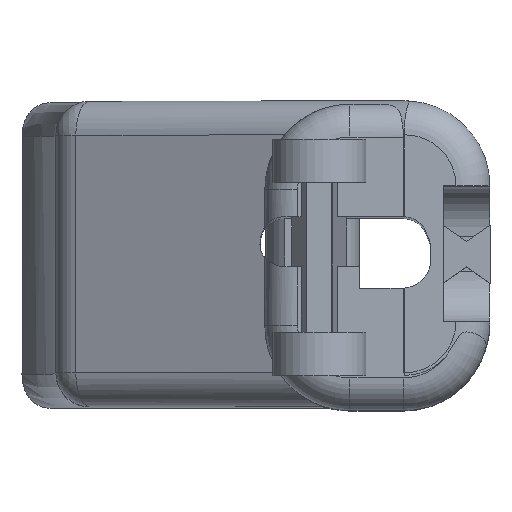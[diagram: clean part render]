
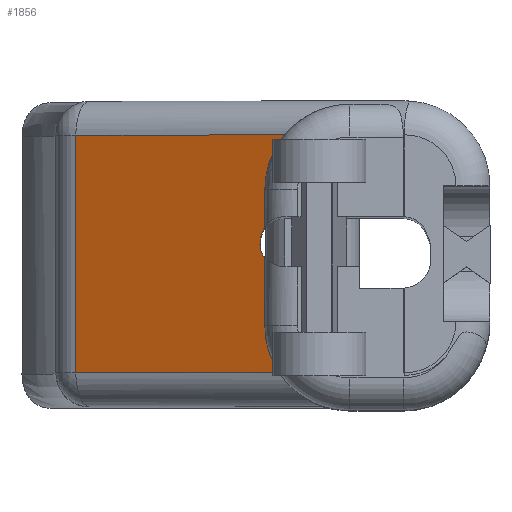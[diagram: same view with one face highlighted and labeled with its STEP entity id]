
A CAD part, top view. The second image highlights one B-rep face of the part: STEP entity #1856.
In plain terms, the highlighted planar face has unit normal (-0.412, 0, 0.911).
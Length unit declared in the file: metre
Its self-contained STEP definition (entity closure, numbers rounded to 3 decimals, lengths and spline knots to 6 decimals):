
#27=ELLIPSE('',#1969,0.001659,0.001512);
#28=ELLIPSE('',#1972,0.005608,0.005109);
#29=ELLIPSE('',#1977,0.005608,0.005109);
#30=ELLIPSE('',#2011,0.001616,0.001473);
#78=PLANE('',#2010);
#409=ORIENTED_EDGE('',*,*,#910,.F.);
#410=ORIENTED_EDGE('',*,*,#834,.T.);
#411=ORIENTED_EDGE('',*,*,#855,.T.);
#412=ORIENTED_EDGE('',*,*,#911,.T.);
#413=ORIENTED_EDGE('',*,*,#912,.T.);
#414=ORIENTED_EDGE('',*,*,#892,.T.);
#415=ORIENTED_EDGE('',*,*,#863,.T.);
#416=ORIENTED_EDGE('',*,*,#838,.T.);
#417=ORIENTED_EDGE('',*,*,#853,.F.);
#834=EDGE_CURVE('',#1109,#1111,#1283,.T.);
#838=EDGE_CURVE('',#1116,#1115,#1287,.T.);
#853=EDGE_CURVE('',#1123,#1115,#27,.F.);
#855=EDGE_CURVE('',#1111,#1124,#28,.T.);
#863=EDGE_CURVE('',#1131,#1116,#29,.T.);
#892=EDGE_CURVE('',#1144,#1131,#1307,.F.);
#910=EDGE_CURVE('',#1109,#1123,#30,.F.);
#911=EDGE_CURVE('',#1124,#1155,#1317,.F.);
#912=EDGE_CURVE('',#1155,#1144,#1318,.T.);
#1109=VERTEX_POINT('',#2808);
#1111=VERTEX_POINT('',#2812);
#1115=VERTEX_POINT('',#2821);
#1116=VERTEX_POINT('',#2823);
#1123=VERTEX_POINT('',#2856);
#1124=VERTEX_POINT('',#2861);
#1131=VERTEX_POINT('',#2881);
#1144=VERTEX_POINT('',#2981);
#1155=VERTEX_POINT('',#3034);
#1283=LINE('',#2813,#1459);
#1287=LINE('',#2822,#1463);
#1307=LINE('',#2980,#1483);
#1317=LINE('',#3033,#1493);
#1318=LINE('',#3035,#1494);
#1459=VECTOR('',#2225,1.);
#1463=VECTOR('',#2231,1.);
#1483=VECTOR('',#2331,1.);
#1493=VECTOR('',#2365,1.);
#1494=VECTOR('',#2366,1.);
#1610=EDGE_LOOP('',(#409,#410,#411,#412,#413,#414,#415,#416,#417));
#1719=FACE_BOUND('',#1610,.T.);
#1856=ADVANCED_FACE('',(#1719),#78,.F.);
#1969=AXIS2_PLACEMENT_3D('',#2857,#2257,#2258);
#1972=AXIS2_PLACEMENT_3D('',#2860,#2263,#2264);
#1977=AXIS2_PLACEMENT_3D('',#2880,#2276,#2277);
#2010=AXIS2_PLACEMENT_3D('',#3031,#2361,#2362);
#2011=AXIS2_PLACEMENT_3D('',#3032,#2363,#2364);
#2225=DIRECTION('',(0.,1.,0.));
#2231=DIRECTION('',(0.,1.,0.));
#2257=DIRECTION('',(0.412,0.,-0.911));
#2258=DIRECTION('',(0.911,0.,0.412));
#2263=DIRECTION('',(0.412,0.,-0.911));
#2264=DIRECTION('',(-0.911,0.,-0.412));
#2276=DIRECTION('',(0.412,0.,-0.911));
#2277=DIRECTION('',(-0.911,0.,-0.412));
#2331=DIRECTION('',(-0.911,0.,-0.412));
#2361=DIRECTION('',(0.412,0.,-0.911));
#2362=DIRECTION('',(-0.911,0.,-0.412));
#2363=DIRECTION('',(0.412,0.,-0.911));
#2364=DIRECTION('',(-0.911,0.,-0.412));
#2365=DIRECTION('',(0.911,0.,0.412));
#2366=DIRECTION('',(0.,-1.,0.));
#2808=CARTESIAN_POINT('',(0.020094,0.021817,0.072046));
#2812=CARTESIAN_POINT('',(0.020094,0.024096,0.072046));
#2813=CARTESIAN_POINT('',(0.020094,0.020001,0.072046));
#2821=CARTESIAN_POINT('',(0.020094,0.019956,0.072046));
#2822=CARTESIAN_POINT('',(0.020094,0.020001,0.072046));
#2823=CARTESIAN_POINT('',(0.020094,0.015905,0.072046));
#2856=CARTESIAN_POINT('',(0.01986,0.021268,0.07194));
#2857=CARTESIAN_POINT('',(0.021313,0.020851,0.072597));
#2860=CARTESIAN_POINT('',(0.025203,0.024096,0.074357));
#2861=CARTESIAN_POINT('',(0.021279,0.027367,0.072582));
#2880=CARTESIAN_POINT('',(0.025203,0.015905,0.074357));
#2881=CARTESIAN_POINT('',(0.020944,0.013084,0.07243));
#2980=CARTESIAN_POINT('',(0.01242,0.013084,0.068573));
#2981=CARTESIAN_POINT('',(0.008743,0.013084,0.06691));
#3031=CARTESIAN_POINT('',(0.01242,0.000613,0.068573));
#3032=CARTESIAN_POINT('',(0.021304,0.020976,0.072593));
#3033=CARTESIAN_POINT('',(0.01242,0.027367,0.068573));
#3034=CARTESIAN_POINT('',(0.008743,0.027367,0.06691));
#3035=CARTESIAN_POINT('',(0.008743,0.013084,0.06691));
